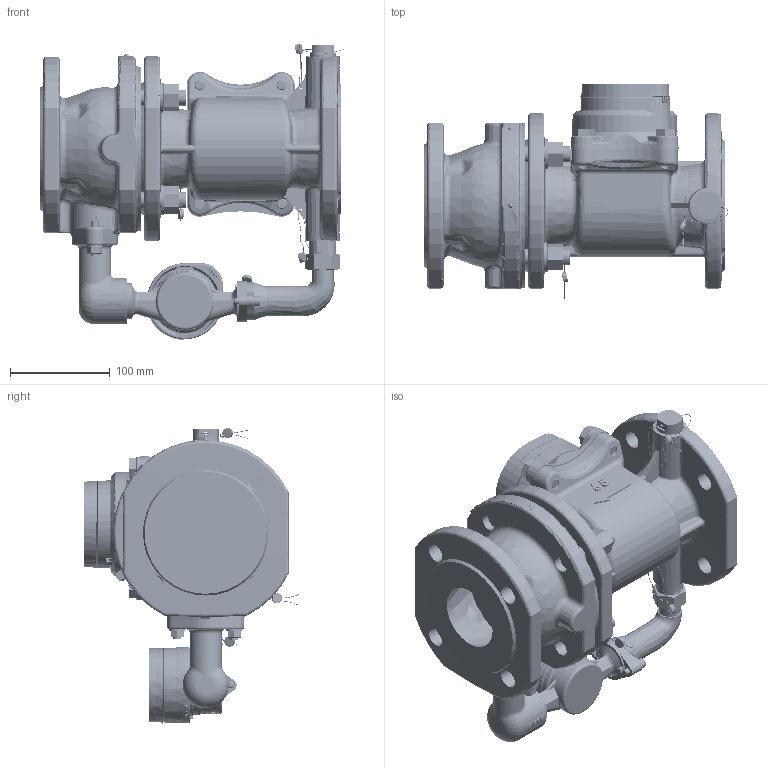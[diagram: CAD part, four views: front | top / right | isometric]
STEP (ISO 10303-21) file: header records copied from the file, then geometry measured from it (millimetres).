
FILE_DESCRIPTION (( 'STEP AP214' ), '1' );
FILE_NAME ('MWN_JS_65_4 IP68.STEP', '2025-08-05T09:26:43', ( '' ), ( '' ), 'SwSTEP 2.0', 'SolidWorks 2019', '' );
FILE_SCHEMA (( 'AUTOMOTIVE_DESIGN' ));
Length unit declared in the file: millimetre
Products named in the file (1): MWN_JS_65_4 IP68
Bounding box: 304.56 x 216.65 x 296.27 mm (x, y, z)
Volume: 4685362 mm3; surface area: 647811.9 mm2
Topology: 57 solids, 77 shells, 5221 faces, 13215 edges, 8199 vertices
Faces by surface type: plane 1756, cylinder 1153, bspline 1086, cone 629, torus 427, sphere 170
Entity records: 275678 total; most frequent: CARTESIAN_POINT 102774, ORIENTED_EDGE 26112, DIRECTION 21520, EDGE_CURVE 13056, AXIS2_PLACEMENT_3D 8328, VERTEX_POINT 8192, EDGE_LOOP 5616, FACE_OUTER_BOUND 5222
